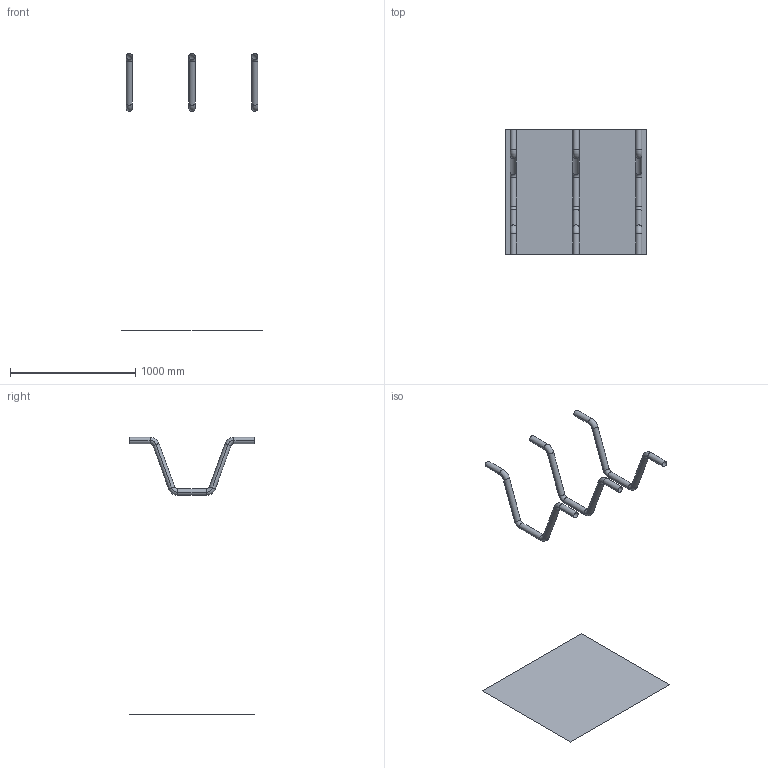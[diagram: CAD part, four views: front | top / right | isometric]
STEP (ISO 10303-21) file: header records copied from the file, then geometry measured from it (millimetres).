
FILE_DESCRIPTION(('CATIA V5 STEP Exchange'),'2;1');
FILE_NAME('C:\_Andres\UNIVERSIDAD\IQS\ASIGNATURAS\DAO\EXF\EXF-16172c\2inicio\Esteba_Torres_Ej08_v12.stp','2017-03-05T21:54:51+00:00',('none'),('none'),'CATIA Version 5-6 Release 2014 SP1 HF18','CATIA V5 STEP AP203','none');
FILE_SCHEMA(('CONFIG_CONTROL_DESIGN'));
Length unit declared in the file: millimetre
Products named in the file (1): Esteba_Torres_Ej08_v12
Bounding box: 1120 x 1000 x 2213 mm (x, y, z)
Surface area: 1846266.4 mm2 (no closed solid volume)
Topology: 0 solids, 4 shells, 55 faces, 118 edges, 64 vertices
Faces by surface type: cylinder 30, torus 24, plane 1
Entity records: 1283 total; most frequent: ORIENTED_EDGE 220, CARTESIAN_POINT 208, DIRECTION 168, EDGE_CURVE 118, AXIS2_PLACEMENT_3D 110, CIRCLE 84, VERTEX_POINT 64, ADVANCED_FACE 55
